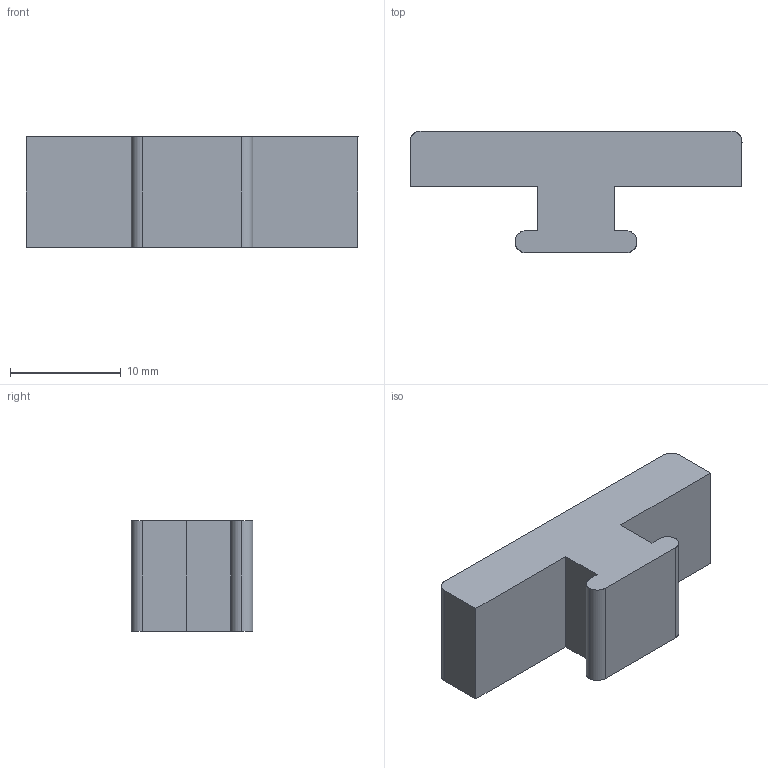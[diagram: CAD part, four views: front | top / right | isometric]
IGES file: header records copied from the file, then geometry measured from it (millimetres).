
Start section: SolidWorks IGES file using analytic representation for surfaces
Global section: file name: C:\Documents and Settings\URETIM3\Desktop\yeni katalog tolgay düzenli\E kataloðu\T 300 PROFÝL ALPOLEN 1000\206 T30 001.IGS; native system: SolidWorks 2006 by SolidWorks Corporation; preprocessor: SolidWorks 2006 by SolidWorks Corporation; author: URETIM3; date: 060912.161356; units: millimetre
Bounding box: 30 x 11 x 10 mm (x, y, z)
Surface area: 1271.7 mm2 (no closed solid volume)
Topology: 0 solids, 0 shells, 17 faces, 176 edges, 176 vertices
Faces by surface type: bspline 12, revolution 5
